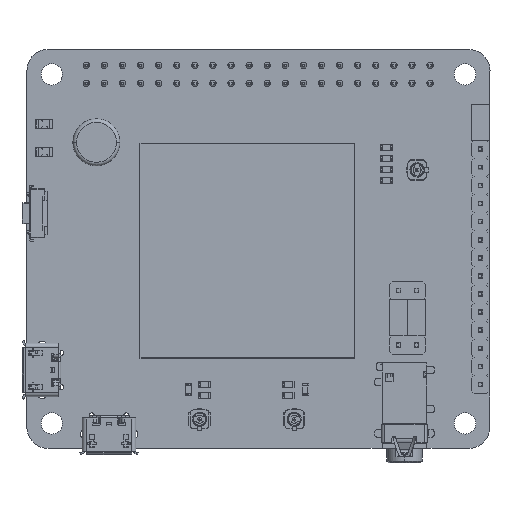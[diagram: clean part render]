
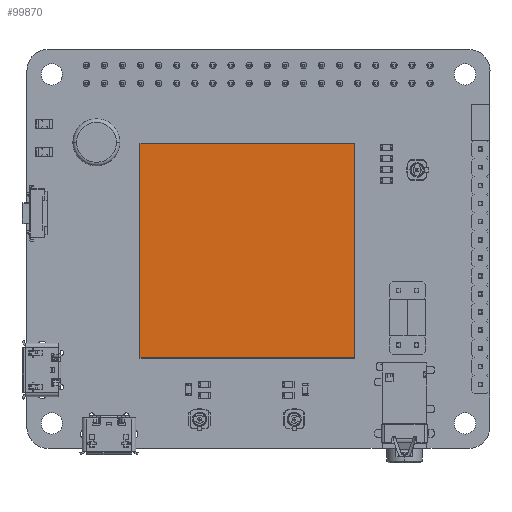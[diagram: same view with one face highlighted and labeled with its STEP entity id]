
A CAD part, top view. The second image highlights one B-rep face of the part: STEP entity #99870.
In plain terms, the highlighted planar face has unit normal (0, 0, 1).
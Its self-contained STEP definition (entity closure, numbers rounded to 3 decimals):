
#99755=DIRECTION('',(-1.,0.,0.));
#99756=VECTOR('',#99755,30.15);
#99757=CARTESIAN_POINT('',(15.075,15.075,2.99));
#99758=LINE('',#99757,#99756);
#99762=DIRECTION('',(0.,1.,0.));
#99763=VECTOR('',#99762,30.15);
#99764=CARTESIAN_POINT('',(15.075,-15.075,2.99));
#99765=LINE('',#99764,#99763);
#99769=DIRECTION('',(1.,0.,0.));
#99770=VECTOR('',#99769,30.15);
#99771=CARTESIAN_POINT('',(-15.075,-15.075,2.99));
#99772=LINE('',#99771,#99770);
#99776=DIRECTION('',(0.,-1.,0.));
#99777=VECTOR('',#99776,30.15);
#99778=CARTESIAN_POINT('',(-15.075,15.075,2.99));
#99779=LINE('',#99778,#99777);
#99783=CARTESIAN_POINT('',(15.075,15.075,2.99));
#99785=VERTEX_POINT('',#99783);
#99787=CARTESIAN_POINT('',(-15.075,15.075,2.99));
#99788=VERTEX_POINT('',#99787);
#99791=CARTESIAN_POINT('',(-15.075,-15.075,2.99));
#99792=VERTEX_POINT('',#99791);
#99795=CARTESIAN_POINT('',(15.075,-15.075,2.99));
#99796=VERTEX_POINT('',#99795);
#99859=CARTESIAN_POINT('',(15.075,15.075,2.99));
#99860=DIRECTION('',(0.,0.,-1.));
#99861=DIRECTION('',(-1.,0.,0.));
#99862=AXIS2_PLACEMENT_3D('',#99859,#99860,#99861);
#99863=PLANE('',#99862);
#99864=ORIENTED_EDGE('',*,*,#99806,.F.);
#99865=ORIENTED_EDGE('',*,*,#99822,.F.);
#99866=ORIENTED_EDGE('',*,*,#99837,.F.);
#99867=ORIENTED_EDGE('',*,*,#99851,.F.);
#99868=EDGE_LOOP('',(#99864,#99865,#99866,#99867));
#99869=FACE_OUTER_BOUND('',#99868,.F.);
#99870=ADVANCED_FACE('',(#99869),#99863,.F.);
#99806=EDGE_CURVE('',#99785,#99788,#99758,.T.);
#99822=EDGE_CURVE('',#99796,#99785,#99765,.T.);
#99837=EDGE_CURVE('',#99792,#99796,#99772,.T.);
#99851=EDGE_CURVE('',#99788,#99792,#99779,.T.);
